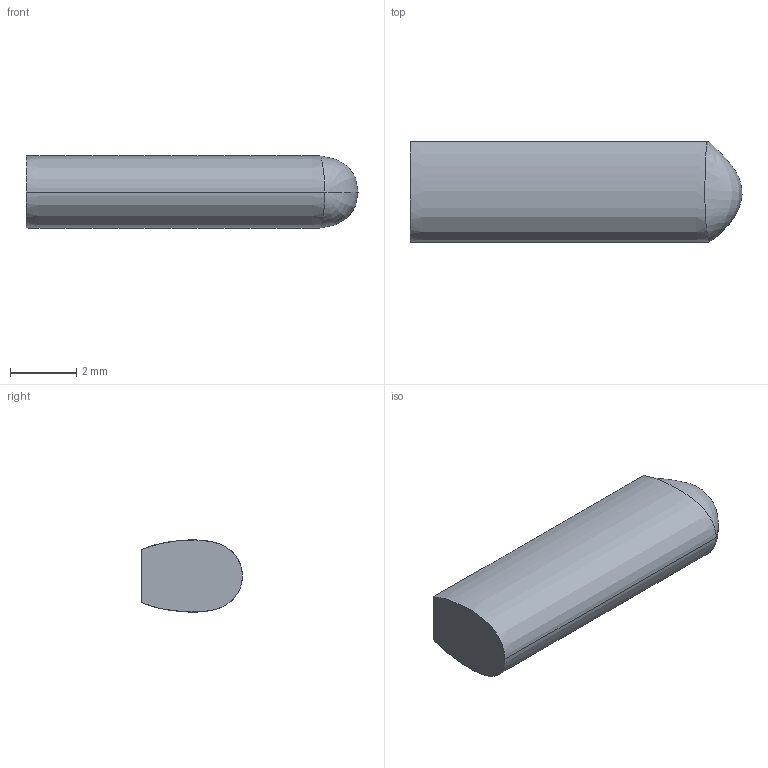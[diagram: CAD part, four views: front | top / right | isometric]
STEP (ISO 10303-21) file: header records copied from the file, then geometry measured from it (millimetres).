
FILE_DESCRIPTION((''),'1');
FILE_NAME('ELEK-ST10-08R','2001-03-30T',('rgoetz'),(''),'PRO/ENGINEER BY PARAMETRIC TECHNOLOGY CORPORATION, 2000350','PRO/ENGINEER BY PARAMETRIC TECHNOLOGY CORPORATION, 2000350','');
FILE_SCHEMA(('CONFIG_CONTROL_DESIGN'));
Length unit declared in the file: millimetre
Products named in the file (1): ELEK-ST10-08R
Bounding box: 10 x 3.03 x 2.18 mm (x, y, z)
Volume: 54.5 mm3; surface area: 94.5 mm2
Topology: 1 solids, 1 shells, 6 faces, 13 edges, 7 vertices
Faces by surface type: plane 2, extrusion 2, bspline 2
Entity records: 579 total; most frequent: CARTESIAN_POINT 438, ORIENTED_EDGE 22, EDGE_CURVE 11, DIRECTION 10, B_SPLINE_CURVE_WITH_KNOTS 9, VERTEX_POINT 7, VECTOR 6, EDGE_LOOP 6
